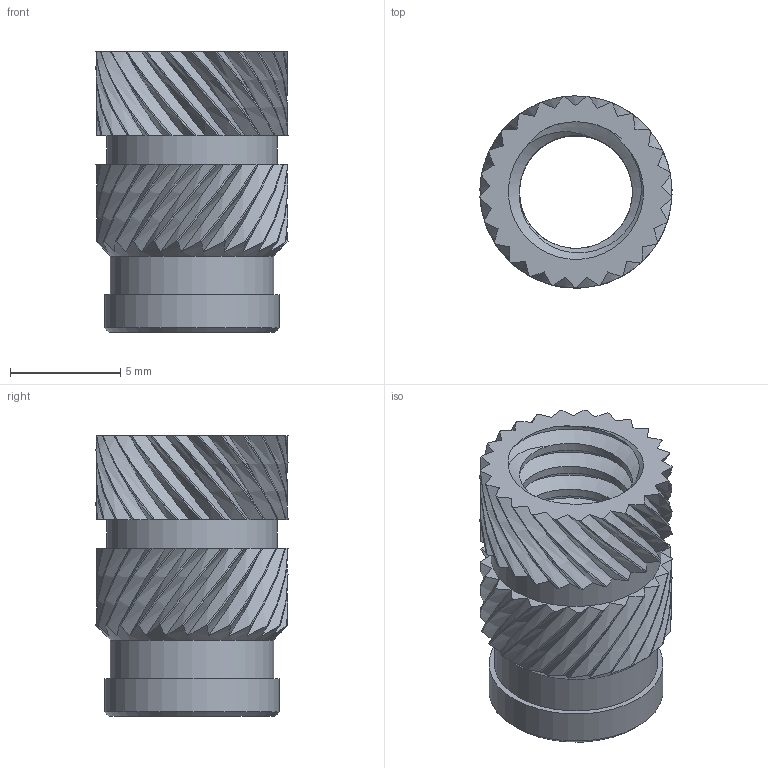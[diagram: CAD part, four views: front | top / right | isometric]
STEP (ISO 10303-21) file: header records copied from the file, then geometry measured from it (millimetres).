
FILE_DESCRIPTION(/* description */ (''),/* implementation_level */ '2;1');
FILE_NAME(/* name */ 'C:/Users/stefa/Desktop/Sync/Podcast/Produkte/Inserts/CAD/Insert_14-20.step',/* time_stamp */ '2021-08-31T17:01:04+02:00',/* author */ (''),/* organization */ (''),/* preprocessor_version */ 'ST-DEVELOPER v18.1',/* originating_system */ 'Autodesk Translation Framework v10.10.0.1391',/* authorisation */ '');
FILE_SCHEMA (('AUTOMOTIVE_DESIGN { 1 0 10303 214 3 1 1 }'));
Length unit declared in the file: millimetre
Products named in the file (1): Insert_14-20
Bounding box: 8.69 x 8.7 x 12.7 mm (x, y, z)
Volume: 320.7 mm3; surface area: 845.9 mm2
Topology: 1 solids, 12 shells, 376 faces, 1046 edges, 697 vertices
Faces by surface type: bspline 203, plane 94, cylinder 75, cone 4
Full cylindrical faces by diameter (mm): 5.116 x3, 6.35 x2, 7.4 x1, 7.7 x1, 7.9 x1
Entity records: 16471 total; most frequent: CARTESIAN_POINT 8492, ORIENTED_EDGE 2092, EDGE_CURVE 1046, DIRECTION 905, VERTEX_POINT 697, B_SPLINE_CURVE_WITH_KNOTS 604, EDGE_LOOP 383, FACE_OUTER_BOUND 376
